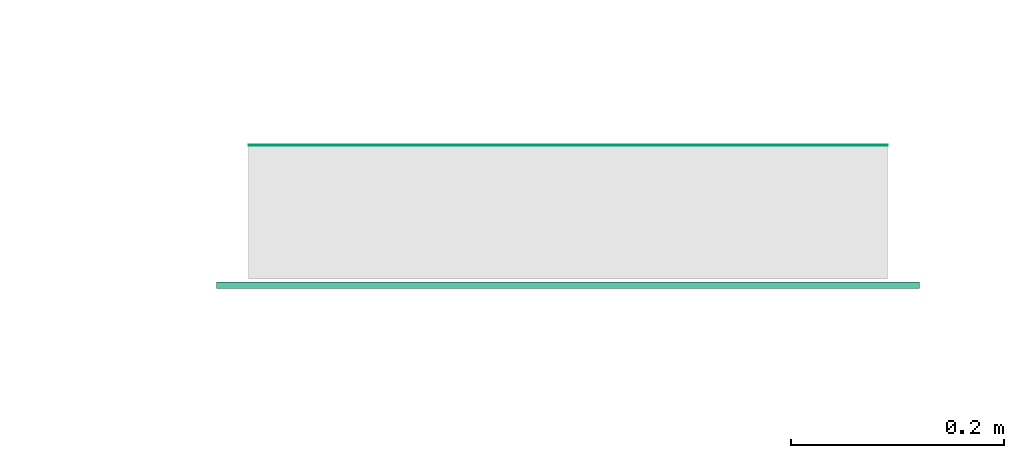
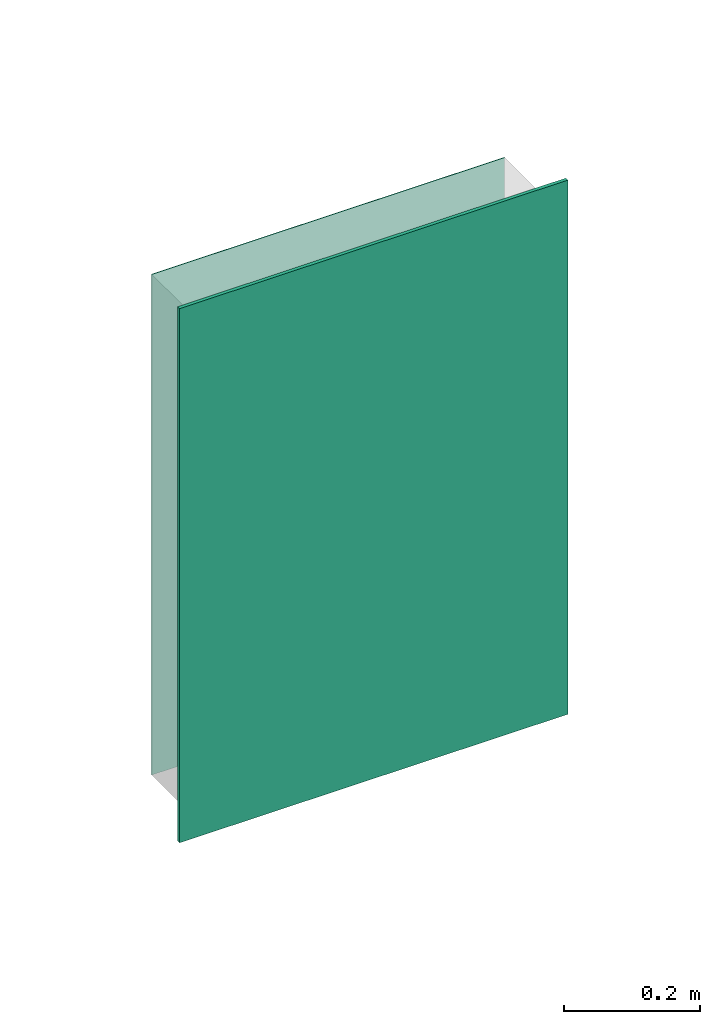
# One storey, part 52 of 63: 1 flow fitting, 1 flow terminal.
"""IFC2X3 building model written with IfcOpenShell, lengths in millimetres."""

from ifc_helpers import new_model, entity, si_unit, converted_unit, derived_unit, direction, frame, origin_with_axes, place, context, subcontext, project, spatial, open_shell, surface_model, source, transform, mapped, type_object, element, save


model = new_model("IFC2X3")

# Units and contexts
model_context = context("Model", 3, precision=0.01, world=frame((0.0, 4.29681676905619e-09, 0.0)), true_north=direction((4.01073788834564e-13, 1.0)))
plan_context = context("Plan", 3, precision=0.01, world=frame((0.0, 4.29681676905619e-09, 0.0)), true_north=direction((4.01073788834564e-13, 1.0)))
body_context = subcontext(model_context, "Body", "Model", "MODEL_VIEW")
ifc_project = project(units=[converted_unit("PLANEANGLEUNIT", "DEGREE", entity("IfcPositiveLengthMeasure", 0.0174532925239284), si_unit("PLANEANGLEUNIT", "RADIAN"), dimensions=[0, 0, 0, 0, 0, 0, 0]), si_unit("AREAUNIT", "SQUARE_METRE"), si_unit("LENGTHUNIT", "METRE", prefix="MILLI"), si_unit("MASSUNIT", "GRAM", prefix="KILO"), si_unit("POWERUNIT", "WATT"), si_unit("PRESSUREUNIT", "PASCAL"), si_unit("FORCEUNIT", "NEWTON", prefix="KILO"), si_unit("ELECTRICVOLTAGEUNIT", "VOLT"), si_unit("ELECTRICCURRENTUNIT", "AMPERE"), si_unit("THERMODYNAMICTEMPERATUREUNIT", "DEGREE_CELSIUS"), si_unit("TIMEUNIT", "SECOND"), si_unit("VOLUMEUNIT", "CUBIC_METRE"), derived_unit("LINEARVELOCITYUNIT", [(si_unit("LENGTHUNIT", "METRE"), 1), (si_unit("TIMEUNIT", "SECOND"), -1)]), derived_unit("VOLUMETRICFLOWRATEUNIT", [(si_unit("VOLUMEUNIT", "CUBIC_METRE"), 1), (si_unit("TIMEUNIT", "SECOND"), -1)]), derived_unit("THERMALTRANSMITTANCEUNIT", [(si_unit("POWERUNIT", "WATT"), 1), (si_unit("THERMODYNAMICTEMPERATUREUNIT", "KELVIN"), -1), (si_unit("AREAUNIT", "SQUARE_METRE"), -1)]), derived_unit("SOUNDPRESSUREUNIT", [(si_unit("PRESSUREUNIT", "PASCAL"), 1)])], contexts=[model_context, plan_context])

# Site, building, storey
site_placement = place(None, frame((0.0, -4.29681676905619e-09, 0.0), z_axis=(0.0, 0.0, 1.0), x_axis=(1.0, 0.0, 0.0)))
site = spatial("IfcSite", under=ifc_project, at=site_placement, CompositionType="ELEMENT")
building_placement = place(site_placement, frame((0.0, 4.29681676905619e-09, 0.0), z_axis=(0.0, 0.0, 1.0), x_axis=(1.0, 0.0, 0.0)))
building = spatial("IfcBuilding", under=site, at=building_placement, Name="mc-building", CompositionType="ELEMENT")
storey_placement = place(building_placement, frame((0.0, 0.0, 210900.0), z_axis=(0.0, 0.0, 1.0), x_axis=(1.0, 0.0, 0.0)))
storey = spatial("IfcBuildingStorey", under=building, at=storey_placement, Name="Nivå F", CompositionType="ELEMENT", Elevation=210900.0)

# Flow fitting
duct_fitting_type = type_object("IfcDuctFittingType", Name="LEPR", PredefinedType="OBSTRUCTION")
shared_shape_1 = source(origin_with_axes(), body_context, "Body", "SurfaceModel", [
    surface_model("IfcShellBasedSurfaceModel", [(0.0, 300.0, 450.0), (0.0, 300.0, -450.0), (0.0, -300.0, -450.0), (0.0, -300.0, 450.0), (0.8, -300.0, -450.0), (0.8, 300.0, -450.0), (0.8, 300.0, 450.0), (0.8, -300.0, 450.0)], [open_shell([[[0, 1, 2]], [[2, 3, 0]], [[4, 5, 6]], [[6, 7, 4]], [[1, 0, 6]], [[6, 5, 1]], [[2, 1, 5]], [[5, 4, 2]], [[3, 2, 4]], [[4, 7, 3]], [[0, 3, 7]], [[7, 6, 0]]])]),
])
flow_fitting_placement = place(storey_placement, frame((535911.24375, 461269.06875, 600.0), z_axis=(0.0, 0.0, 1.0), x_axis=(0.0, 1.0, 0.0)))
element("IfcFlowFitting", 1, at=flow_fitting_placement, inside=storey, type_object=duct_fitting_type, Name="LEPR", context=body_context, shape_type="MappedRepresentation", body=[
    mapped(shared_shape_1, transform((0.0, 0.0, 0.0), scale=1.0)),
])

# Flow terminal
air_terminal_type = type_object("IfcAirTerminalType", Name="BRTR-600-900", PredefinedType="NOTDEFINED")
shared_shape_2 = source(origin_with_axes(), body_context, "Body", "SurfaceModel", [
    surface_model("IfcShellBasedSurfaceModel", [(0.0, -329.99999, 479.99999), (6.0, -329.99999, 479.99999), (6.0, 329.99999, 479.99999), (0.0, 329.99999, 479.99999), (0.0, 329.99999, -479.99999), (6.0, 329.99999, -479.99999), (6.0, -329.99999, -479.99999), (0.0, -329.99999, -479.99999)], [open_shell([[[0, 1, 2]], [[2, 3, 0]], [[4, 5, 6]], [[6, 7, 4]], [[2, 1, 6]], [[6, 5, 2]], [[3, 2, 5]], [[5, 4, 3]], [[0, 3, 4]], [[4, 7, 0]], [[1, 0, 7]], [[7, 6, 1]]])]),
])
flow_terminal_placement = place(storey_placement, frame((535911.24375, 461140.99027, 600.0), z_axis=(0.0, 0.0, 1.0), x_axis=(0.0, -1.0, 0.0)))
element("IfcFlowTerminal", 2, at=flow_terminal_placement, inside=storey, type_object=air_terminal_type, Name="BRTR-600-900", context=body_context, shape_type="MappedRepresentation", body=[
    mapped(shared_shape_2, transform((0.0, 0.0, 0.0), scale=1.0)),
])

save(model, "model.ifc")
